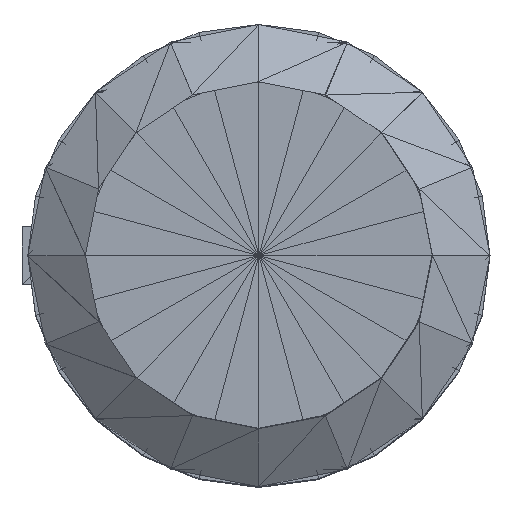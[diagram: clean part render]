
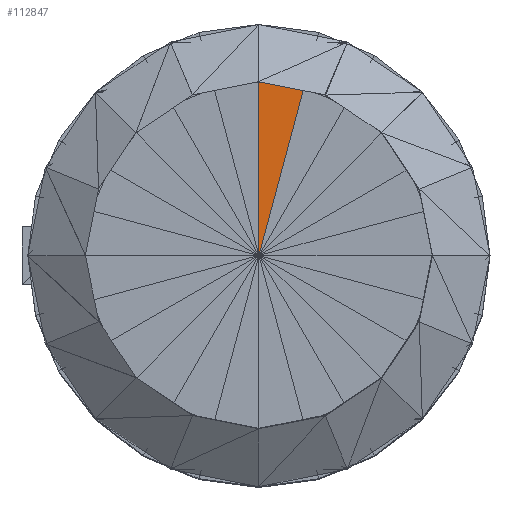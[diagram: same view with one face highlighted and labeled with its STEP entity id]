
A CAD part, top view. The second image highlights one B-rep face of the part: STEP entity #112847.
In plain terms, the highlighted planar face has unit normal (0, 0, 1).
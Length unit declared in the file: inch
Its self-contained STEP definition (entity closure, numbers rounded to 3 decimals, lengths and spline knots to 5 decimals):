
#112816=CARTESIAN_POINT('',(0.03154,0.11764,0.41736));
#112817=DIRECTION('',(0.,0.,1.));
#112818=DIRECTION('',(1.,0.,0.));
#112819=AXIS2_PLACEMENT_3D('',#112816,#112817,#112818);
#112820=PLANE('',#112819);
#112821=CARTESIAN_POINT('',(0.03154,0.11764,0.41736));
#112822=VERTEX_POINT('',#112821);
#112823=CARTESIAN_POINT('',(-0.,0.1218,0.41737));
#112824=VERTEX_POINT('',#112823);
#112825=CARTESIAN_POINT('',(0.03154,0.11764,0.41736));
#112826=DIRECTION('',(-0.991,0.131,0.));
#112827=VECTOR('',#112826,0.03181);
#112828=LINE('',#112825,#112827);
#112829=EDGE_CURVE('',#112822,#112824,#112828,.T.);
#112830=ORIENTED_EDGE('',*,*,#112829,.T.);
#112831=CARTESIAN_POINT('',(-0.,-0.00009,0.41734));
#112832=VERTEX_POINT('',#112831);
#112833=CARTESIAN_POINT('',(0.,-0.00009,0.41734));
#112834=DIRECTION('',(0.,1.,0.));
#112835=VECTOR('',#112834,0.12188);
#112836=LINE('',#112833,#112835);
#112837=EDGE_CURVE('',#112832,#112824,#112836,.T.);
#112838=ORIENTED_EDGE('',*,*,#112837,.F.);
#112839=CARTESIAN_POINT('',(-0.,-0.00009,0.41734));
#112840=DIRECTION('',(0.259,0.966,0.));
#112841=VECTOR('',#112840,0.12187);
#112842=LINE('',#112839,#112841);
#112843=EDGE_CURVE('',#112832,#112822,#112842,.T.);
#112844=ORIENTED_EDGE('',*,*,#112843,.T.);
#112845=EDGE_LOOP('',(#112830,#112838,#112844));
#112846=FACE_BOUND('',#112845,.T.);
#112847=ADVANCED_FACE('',(#112846),#112820,.T.);
